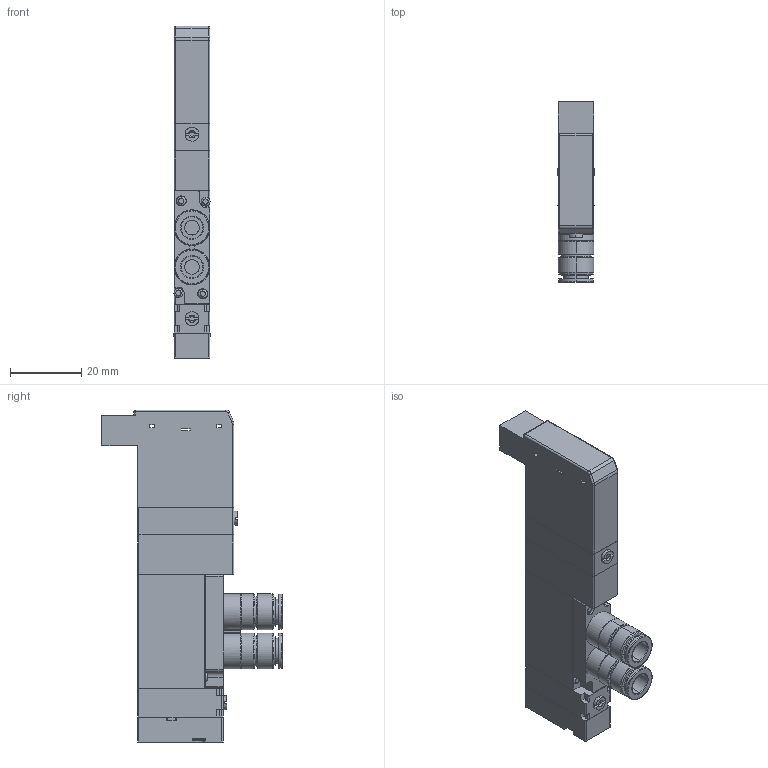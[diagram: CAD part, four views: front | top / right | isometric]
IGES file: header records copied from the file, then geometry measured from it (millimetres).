
Start section: ------------------------------------------------------------------------
Global section: file name: D:\ICADMX\tmp\trans3d_spg\CVICAD02.18204.F10T2-FJ_8690.igs; native system: spGate; preprocessor: ver12.6.6; author: Unknown; organization: Unknown; date: 200901.142504; units: millimetre
Bounding box: 10.2 x 50.5 x 93 mm (x, y, z)
Volume: 26104.9 mm3; surface area: 12667.5 mm2
Topology: 7 solids, 7 shells, 322 faces, 772 edges, 490 vertices
Faces by surface type: bspline 322
